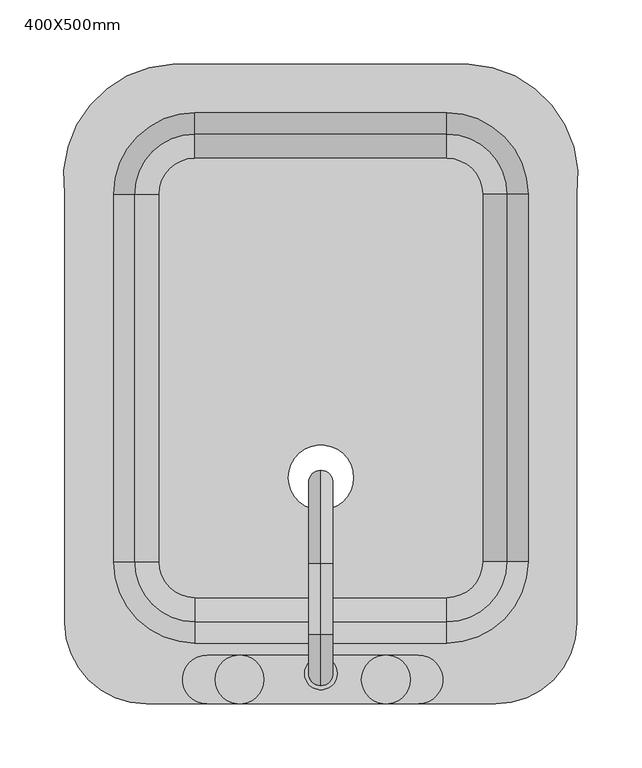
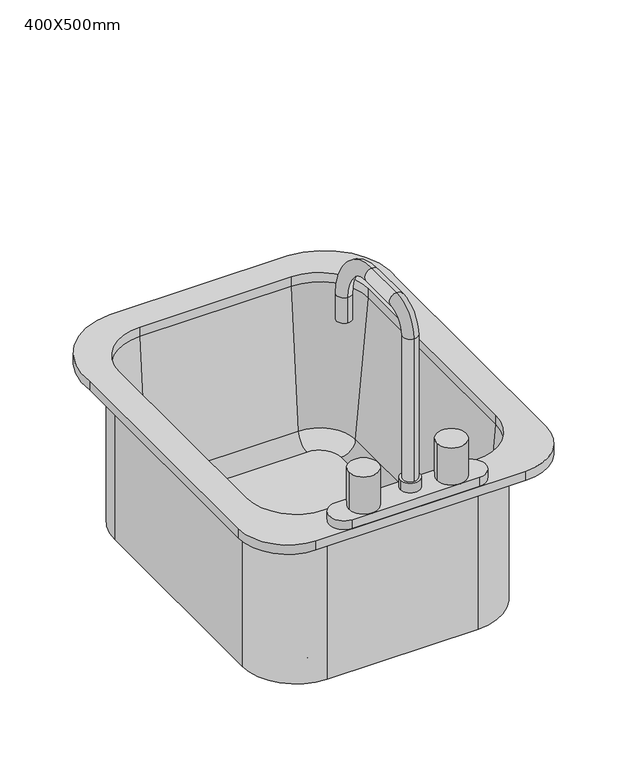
"""IFC4 building model written with IfcOpenShell, lengths in millimetres: flow terminal geometry, ARQ_VANITORIO : 400X500mm."""

from ifc_helpers import new_model, si_unit, point, frame, origin, place, context, project, spatial, polyline, circle_curve, ellipse_curve, trimmed, source, transform, mapped, element, save
from ifc_brep_helpers import plane_surface, cylinder_surface, revolved_surface, advanced_brep


def flow_terminal_400x500mm_d8bb822e(model_context):
    return source(origin(), model_context, "Body", "AdvancedBrep", [
        advanced_brep(
        [(183.9392406, -69.0204011, 634.1), (183.9392406, -69.0204011, 850.0), (114.0892406, -138.8704011, 850.0), (114.0892406, -138.8704011, 634.1), (-82.7107594, -138.8704011, 634.1), (-152.5607594, -69.0204011, 634.1), (-152.5607594, 218.2545989, 634.1), (-82.7107594, 288.1045989, 634.1), (114.0892406, 288.1045989, 634.1), (183.9392406, 218.2545989, 634.1), (-9.7107594, -3.175, 634.1), (41.0892406, -3.175, 634.1), (142.0776588, -69.0204011, 643.625), (142.0776588, 218.2545989, 643.625), (114.0892406, 246.2430171, 643.625), (-82.7107594, 246.2430171, 643.625), (-110.6991776, 218.2545989, 643.625), (-110.6991776, -69.0204011, 643.625), (-82.7107594, -97.0088193, 643.625), (114.0892406, -97.0088193, 643.625), (-9.7107594, -3.175, 643.625), (41.0892406, -3.175, 643.625), (114.0892406, -115.9863283, 661.0146831), (161.0551678, -69.0204011, 661.0146831), (114.0892406, -132.5204011, 850.0), (177.5892406, -69.0204011, 850.0), (183.9392406, 218.2545989, 850.0), (161.0551678, 218.2545989, 661.0146831), (177.5892406, 218.2545989, 850.0), (114.0892406, 288.1045989, 850.0), (114.0892406, 265.2205261, 661.0146831), (114.0892406, 281.7545989, 850.0), (-82.7107594, 288.1045989, 850.0), (-82.7107594, 265.2205261, 661.0146831), (-82.7107594, 281.7545989, 850.0), (-152.5607594, 218.2545989, 850.0), (-129.6766866, 218.2545989, 661.0146831), (-146.2107594, 218.2545989, 850.0), (-152.5607594, -69.0204011, 850.0), (-129.6766866, -69.0204011, 661.0146831), (-146.2107594, -69.0204011, 850.0), (-82.7107594, -138.8704011, 850.0), (-82.7107594, -115.9863283, 661.0146831), (-82.7107594, -132.5204011, 850.0), (-99.9606923, 319.8545989, 862.7), (-184.3107593, 218.2545982, 862.7), (-184.3107593, -116.6454011, 862.7), (-120.8107593, -180.1454011, 862.7), (152.1892406, -180.1454011, 862.7), (215.6892406, -116.6454011, 862.7), (215.6892406, 218.2545989, 862.7), (131.3391735, 319.8545989, 862.7), (114.0892406, -132.5204011, 862.7), (-82.7107594, -132.5204011, 862.7), (-146.2107594, -69.0204011, 862.7), (-146.2107594, 218.2545989, 862.7), (-82.7107594, 281.7545989, 862.7), (114.0892406, 281.7545989, 862.7), (177.5892406, 218.2545989, 862.7), (177.5892406, -69.0204011, 862.7), (-99.9606923, 319.8545989, 850.0), (131.3391735, 319.8545989, 850.0), (215.6892406, 218.2545989, 850.0), (215.6892406, -116.6454011, 850.0), (152.1892406, -180.1454011, 850.0), (-120.8107593, -180.1454011, 850.0), (-184.3107593, -116.6454011, 850.0), (-184.3107593, 218.2545982, 850.0)],
        [
            (0, 1),
            (1, 2, circle_curve(frame((114.0892406, -69.0204011, 850.0), z_axis=(0.0, 0.0, -1.0), x_axis=(0.0, -1.0, 0.0)), 69.85)),
            (2, 3),
            (3, 0, circle_curve(frame((114.0892406, -69.0204011, 634.1), z_axis=(0.0, 0.0, 1.0), x_axis=(0.0, -1.0, 0.0)), 69.85)),
            (3, 4),
            (4, 5, circle_curve(frame((-82.7107594, -69.0204011, 634.1), z_axis=(0.0, 0.0, -1.0), x_axis=(-1.0, 0.0, 0.0)), 69.85)),
            (5, 6),
            (6, 7, circle_curve(frame((-82.7107594, 218.2545989, 634.1), z_axis=(0.0, 0.0, -1.0), x_axis=(0.0, 1.0, 0.0)), 69.85)),
            (7, 8),
            (8, 9, circle_curve(frame((114.0892406, 218.2545989, 634.1), z_axis=(0.0, 0.0, -1.0), x_axis=(1.0, 0.0, 0.0)), 69.85)),
            (9, 0),
            (10, 11, circle_curve(frame((15.6892406, -3.175, 634.1), z_axis=(0.0, 0.0, 1.0), x_axis=(1.0, 0.0, 0.0)), 25.4)),
            (11, 10, circle_curve(frame((15.6892406, -3.175, 634.1), z_axis=(0.0, 0.0, 1.0), x_axis=(1.0, 0.0, 0.0)), 25.4)),
            (12, 13),
            (13, 14, circle_curve(frame((114.0892406, 218.2545989, 643.625), z_axis=(0.0, 0.0, 1.0), x_axis=(1.0, 0.0, 0.0)), 27.9884182)),
            (14, 15),
            (15, 16, circle_curve(frame((-82.7107594, 218.2545989, 643.625), z_axis=(0.0, 0.0, 1.0), x_axis=(0.0, 1.0, 0.0)), 27.9884182)),
            (16, 17),
            (17, 18, circle_curve(frame((-82.7107594, -69.0204011, 643.625), z_axis=(0.0, 0.0, 1.0), x_axis=(-1.0, 0.0, 0.0)), 27.9884182)),
            (18, 19),
            (19, 12, circle_curve(frame((114.0892406, -69.0204011, 643.625), z_axis=(0.0, 0.0, 1.0), x_axis=(0.0, -1.0, 0.0)), 27.9884182)),
            (20, 21, circle_curve(frame((15.6892406, -3.175, 643.625), z_axis=(0.0, 0.0, -1.0), x_axis=(1.0, 0.0, 0.0)), 25.4)),
            (21, 20, circle_curve(frame((15.6892406, -3.175, 643.625), z_axis=(0.0, 0.0, -1.0), x_axis=(1.0, 0.0, 0.0)), 25.4)),
            (19, 22, circle_curve(frame((114.0892406, -97.0088193, 662.675), z_axis=(-1.0, 0.0, 0.0), x_axis=(0.0, -1.0, 0.0)), 19.05)),
            (22, 23, circle_curve(frame((114.0892406, -69.0204011, 661.0146831), z_axis=(0.0, 0.0, 1.0), x_axis=(0.0, -1.0, 0.0)), 46.9659272)),
            (23, 12, circle_curve(frame((142.0776588, -69.0204011, 662.675), z_axis=(0.0, 1.0, 0.0), x_axis=(1.0, 0.0, 0.0)), 19.05)),
            (22, 24),
            (24, 25, circle_curve(frame((114.0892406, -69.0204011, 850.0), z_axis=(0.0, 0.0, 1.0), x_axis=(0.0, -1.0, 0.0)), 63.5)),
            (25, 23),
            (9, 26),
            (26, 1),
            (23, 27),
            (27, 13, circle_curve(frame((142.0776588, 218.2545989, 662.675), z_axis=(0.0, 1.0, 0.0), x_axis=(1.0, 0.0, 0.0)), 19.05)),
            (25, 28),
            (28, 27),
            (8, 29),
            (29, 26, circle_curve(frame((114.0892406, 218.2545989, 850.0), z_axis=(0.0, 0.0, -1.0), x_axis=(1.0, 0.0, 0.0)), 69.85)),
            (27, 30, circle_curve(frame((114.0892406, 218.2545989, 661.0146831), z_axis=(0.0, 0.0, 1.0), x_axis=(1.0, 0.0, 0.0)), 46.9659272)),
            (30, 14, circle_curve(frame((114.0892406, 246.2430171, 662.675), z_axis=(-1.0, 0.0, 0.0), x_axis=(0.0, 1.0, 0.0)), 19.05)),
            (28, 31, circle_curve(frame((114.0892406, 218.2545989, 850.0), z_axis=(0.0, 0.0, 1.0), x_axis=(1.0, 0.0, 0.0)), 63.5)),
            (31, 30),
            (7, 32),
            (32, 29),
            (30, 33),
            (33, 15, circle_curve(frame((-82.7107594, 246.2430171, 662.675), z_axis=(-1.0, 0.0, 0.0), x_axis=(0.0, 1.0, 0.0)), 19.05)),
            (31, 34),
            (34, 33),
            (6, 35),
            (35, 32, circle_curve(frame((-82.7107594, 218.2545989, 850.0), z_axis=(0.0, 0.0, -1.0), x_axis=(0.0, 1.0, 0.0)), 69.85)),
            (33, 36, circle_curve(frame((-82.7107594, 218.2545989, 661.0146831), z_axis=(0.0, 0.0, 1.0), x_axis=(0.0, 1.0, 0.0)), 46.9659272)),
            (36, 16, circle_curve(frame((-110.6991776, 218.2545989, 662.675), z_axis=(0.0, -1.0, 0.0), x_axis=(-1.0, 0.0, 0.0)), 19.05)),
            (34, 37, circle_curve(frame((-82.7107594, 218.2545989, 850.0), z_axis=(0.0, 0.0, 1.0), x_axis=(0.0, 1.0, 0.0)), 63.5)),
            (37, 36),
            (5, 38),
            (38, 35),
            (36, 39),
            (39, 17, circle_curve(frame((-110.6991776, -69.0204011, 662.675), z_axis=(0.0, -1.0, 0.0), x_axis=(-1.0, 0.0, 0.0)), 19.05)),
            (37, 40),
            (40, 39),
            (4, 41),
            (41, 38, circle_curve(frame((-82.7107594, -69.0204011, 850.0), z_axis=(0.0, 0.0, -1.0), x_axis=(-1.0, 0.0, 0.0)), 69.85)),
            (39, 42, circle_curve(frame((-82.7107594, -69.0204011, 661.0146831), z_axis=(0.0, 0.0, 1.0), x_axis=(-1.0, 0.0, 0.0)), 46.9659272)),
            (42, 18, circle_curve(frame((-82.7107594, -97.0088193, 662.675), z_axis=(1.0, 0.0, 0.0), x_axis=(0.0, -1.0, 0.0)), 19.05)),
            (40, 43, circle_curve(frame((-82.7107594, -69.0204011, 850.0), z_axis=(0.0, 0.0, 1.0), x_axis=(-1.0, 0.0, 0.0)), 63.5)),
            (43, 42),
            (2, 41),
            (42, 22),
            (43, 24),
            (21, 11),
            (10, 20),
            (44, 45, circle_curve(frame((-96.1534746, 230.8793432, 862.7), z_axis=(0.0, 0.0, 1.0), x_axis=(1.0, 0.0, 0.0)), 89.0566732)),
            (45, 46),
            (46, 47, circle_curve(frame((-120.8107593, -116.6454011, 862.7), z_axis=(0.0, 0.0, 1.0), x_axis=(1.0, 0.0, 0.0)), 63.5)),
            (47, 48),
            (48, 49, circle_curve(frame((152.1892406, -116.6454011, 862.7), z_axis=(0.0, 0.0, 1.0), x_axis=(1.0, 0.0, 0.0)), 63.5)),
            (49, 50),
            (50, 51, circle_curve(frame((127.5319557, 230.8793432, 862.7), z_axis=(0.0, 0.0, 1.0), x_axis=(1.0, 0.0, 0.0)), 89.0566732)),
            (51, 44),
            (52, 53),
            (53, 54, circle_curve(frame((-82.7107594, -69.0204011, 862.7), z_axis=(0.0, 0.0, -1.0), x_axis=(1.0, 0.0, 0.0)), 63.5)),
            (54, 55),
            (55, 56, circle_curve(frame((-82.7107594, 218.2545989, 862.7), z_axis=(0.0, 0.0, -1.0), x_axis=(1.0, 0.0, 0.0)), 63.5)),
            (56, 57),
            (57, 58, circle_curve(frame((114.0892406, 218.2545989, 862.7), z_axis=(0.0, 0.0, -1.0), x_axis=(1.0, 0.0, 0.0)), 63.5)),
            (58, 59),
            (59, 52, circle_curve(frame((114.0892406, -69.0204011, 862.7), z_axis=(0.0, 0.0, -1.0), x_axis=(1.0, 0.0, 0.0)), 63.5)),
            (60, 61),
            (61, 62, circle_curve(frame((127.5319557, 230.8793432, 850.0), z_axis=(0.0, 0.0, -1.0), x_axis=(1.0, 0.0, 0.0)), 89.0566732)),
            (62, 63),
            (63, 64, circle_curve(frame((152.1892406, -116.6454011, 850.0), z_axis=(0.0, 0.0, -1.0), x_axis=(1.0, 0.0, 0.0)), 63.5)),
            (64, 65),
            (65, 66, circle_curve(frame((-120.8107593, -116.6454011, 850.0), z_axis=(0.0, 0.0, -1.0), x_axis=(1.0, 0.0, 0.0)), 63.5)),
            (66, 67),
            (67, 60, circle_curve(frame((-96.1534746, 230.8793432, 850.0), z_axis=(0.0, 0.0, -1.0), x_axis=(1.0, 0.0, 0.0)), 89.0566732)),
            (51, 61),
            (60, 44),
            (50, 62),
            (49, 63),
            (48, 64),
            (47, 65),
            (46, 66),
            (45, 67),
            (59, 25),
            (24, 52),
            (58, 28),
            (57, 31),
            (56, 34),
            (55, 37),
            (54, 40),
            (53, 43),
        ],
        [
            cylinder_surface(frame((114.0892406, -69.0204011, 0.0), z_axis=(0.0, 0.0, -1.0), x_axis=(0.0, -1.0, 0.0)), 69.85),
            plane_surface(frame((114.0892406, -69.0204011, 634.1), z_axis=(0.0, 0.0, -1.0), x_axis=(0.0, -1.0, 0.0))),
            plane_surface(frame((114.0892406, -69.0204011, 643.625), z_axis=(0.0, 0.0, 1.0), x_axis=(0.0, -1.0, 0.0))),
            revolved_surface(trimmed(ellipse_curve(frame((114.0892406, -97.0088193, 662.675), z_axis=(-1.0, 0.0, 0.0), x_axis=(0.0, -1.0, 0.0)), 19.05, 19.05), [point((114.0892406, -97.0088193, 643.625))], [point((114.0892406, -115.9863283, 661.0146831))], True, "CARTESIAN"), (114.0892406, -69.0204011, 0.0), (0.0, 0.0, -1.0)),
            revolved_surface(polyline([(114.0892406, -115.9863283, 661.0146831), (114.0892406, -132.5204011, 850.0)]), (114.0892406, -69.0204011, 0.0), (0.0, 0.0, -1.0)),
            plane_surface(frame((183.9392406, -69.0204011, 850.0), z_axis=(1.0, 0.0, 0.0), x_axis=(0.0, 1.0, 0.0))),
            revolved_surface(polyline([(161.1276588, 218.25459889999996, 662.675), (161.1276588, -69.0204011, 662.675)]), (142.0776588, -69.0204011, 662.675), (0.0, 1.0, 0.0)),
            plane_surface(frame((161.0551678, -69.0204011, 661.0146831), z_axis=(-0.9961946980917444, 0.0, 0.08715574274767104), x_axis=(0.0, 1.0, 0.0))),
            cylinder_surface(frame((114.0892406, 218.2545989, 0.0), z_axis=(0.0, 0.0, -1.0), x_axis=(1.0, 0.0, 0.0)), 69.85),
            revolved_surface(trimmed(ellipse_curve(frame((142.0776588, 218.2545989, 662.675), z_axis=(0.0, -1.0, 0.0), x_axis=(1.0, 0.0, 0.0)), 19.05, 19.05), [point((142.0776588, 218.2545989, 643.625))], [point((161.0551678, 218.2545989, 661.0146831))], True, "CARTESIAN"), (114.0892406, 218.2545989, 0.0), (0.0, 0.0, -1.0)),
            revolved_surface(polyline([(161.0551678, 218.2545989, 661.0146831), (177.5892406, 218.2545989, 850.0)]), (114.0892406, 218.2545989, 0.0), (0.0, 0.0, -1.0)),
            plane_surface(frame((114.0892406, 288.1045989, 850.0), z_axis=(0.0, 1.0, 0.0), x_axis=(-1.0, 0.0, 0.0))),
            revolved_surface(polyline([(-82.71075940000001, 265.2930171, 662.675), (114.0892406, 265.2930171, 662.675)]), (114.0892406, 246.2430171, 662.675), (-1.0, 0.0, 0.0)),
            plane_surface(frame((114.0892406, 265.2205261, 661.0146831), z_axis=(0.0, -0.9961946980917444, 0.08715574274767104), x_axis=(-1.0, 0.0, 0.0))),
            cylinder_surface(frame((-82.7107594, 218.2545989, 0.0), z_axis=(0.0, 0.0, -1.0), x_axis=(0.0, 1.0, 0.0)), 69.85),
            revolved_surface(trimmed(ellipse_curve(frame((-82.7107594, 246.2430171, 662.675), z_axis=(1.0, 0.0, 0.0), x_axis=(0.0, 1.0, 0.0)), 19.05, 19.05), [point((-82.7107594, 246.2430171, 643.625))], [point((-82.7107594, 265.2205261, 661.0146831))], True, "CARTESIAN"), (-82.7107594, 218.2545989, 0.0), (0.0, 0.0, -1.0)),
            revolved_surface(polyline([(-82.7107594, 265.2205261, 661.0146831), (-82.7107594, 281.7545989, 850.0)]), (-82.7107594, 218.2545989, 0.0), (0.0, 0.0, -1.0)),
            plane_surface(frame((-152.5607594, 218.2545989, 850.0), z_axis=(-1.0, 0.0, 0.0), x_axis=(0.0, -1.0, 0.0))),
            revolved_surface(polyline([(-129.7491776, -69.02040109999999, 662.675), (-129.7491776, 218.2545989, 662.675)]), (-110.6991776, 218.2545989, 662.675), (0.0, -1.0, 0.0)),
            plane_surface(frame((-129.6766866, 218.2545989, 661.0146831), z_axis=(0.9961946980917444, 0.0, 0.08715574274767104), x_axis=(0.0, -1.0, 0.0))),
            cylinder_surface(frame((-82.7107594, -69.0204011, 0.0), z_axis=(0.0, 0.0, -1.0), x_axis=(-1.0, 0.0, 0.0)), 69.85),
            revolved_surface(trimmed(ellipse_curve(frame((-110.6991776, -69.0204011, 662.675), z_axis=(0.0, 1.0, 0.0), x_axis=(-1.0, 0.0, 0.0)), 19.05, 19.05), [point((-110.6991776, -69.0204011, 643.625))], [point((-129.6766866, -69.0204011, 661.0146831))], True, "CARTESIAN"), (-82.7107594, -69.0204011, 0.0), (0.0, 0.0, -1.0)),
            revolved_surface(polyline([(-129.6766866, -69.0204011, 661.0146831), (-146.2107594, -69.0204011, 850.0)]), (-82.7107594, -69.0204011, 0.0), (0.0, 0.0, -1.0)),
            plane_surface(frame((-82.7107594, -138.8704011, 850.0), z_axis=(0.0, -1.0, 0.0), x_axis=(1.0, 0.0, 0.0))),
            revolved_surface(polyline([(114.08924060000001, -116.0588193, 662.675), (-82.7107594, -116.0588193, 662.675)]), (-82.7107594, -97.0088193, 662.675), (1.0, 0.0, 0.0)),
            plane_surface(frame((-82.7107594, -115.9863283, 661.0146831), z_axis=(0.0, 0.9961946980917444, 0.08715574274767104), x_axis=(1.0, 0.0, 0.0))),
            revolved_surface(polyline([(41.0892406, -3.175, 634.1), (41.0892406, -3.175, 643.625)]), (15.6892406, -3.175, 0.0), (0.0, 0.0, -1.0)),
            plane_surface(frame((131.3391735, 319.8545989, 862.7), z_axis=(0.0, 0.0, 1.0), x_axis=(1.0, 0.0, 0.0))),
            plane_surface(frame((131.3391735, 319.8545989, 850.0), z_axis=(0.0, 0.0, -1.0), x_axis=(-1.0, 0.0, 0.0))),
            plane_surface(frame((-99.9606923, 319.8545989, 862.7), z_axis=(0.0, 1.0, 0.0), x_axis=(0.0, 0.0, -1.0))),
            cylinder_surface(frame((127.5319557, 230.8793432, 850.0), z_axis=(0.0, 0.0, 1.0), x_axis=(1.0, 0.0, 0.0)), 89.0566732),
            plane_surface(frame((215.6892406, 218.2545989, 862.7), z_axis=(1.0, 0.0, 0.0), x_axis=(0.0, 0.0, -1.0))),
            cylinder_surface(frame((152.1892406, -116.6454011, 850.0), z_axis=(0.0, 0.0, 1.0), x_axis=(1.0, 0.0, 0.0)), 63.5),
            plane_surface(frame((152.1892406, -180.1454011, 862.7), z_axis=(0.0, -1.0, 0.0), x_axis=(0.0, 0.0, -1.0))),
            cylinder_surface(frame((-120.8107593, -116.6454011, 850.0), z_axis=(0.0, 0.0, 1.0), x_axis=(1.0, 0.0, 0.0)), 63.5),
            plane_surface(frame((-184.3107593, -116.6454011, 862.7), z_axis=(-1.0, 0.0, 0.0), x_axis=(0.0, 0.0, -1.0))),
            cylinder_surface(frame((-96.1534746, 230.8793432, 850.0), z_axis=(0.0, 0.0, 1.0), x_axis=(1.0, 0.0, 0.0)), 89.0566732),
            revolved_surface(polyline([(177.58924059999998, -69.0204011, 850.0), (177.58924059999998, -69.0204011, 862.7)]), (114.0892406, -69.0204011, 0.0), (0.0, 0.0, -1.0)),
            plane_surface(frame((177.5892406, -69.0204011, 862.7), z_axis=(-1.0, 0.0, 0.0), x_axis=(0.0, 0.0, -1.0))),
            revolved_surface(polyline([(177.58924059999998, 218.2545989, 850.0), (177.58924059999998, 218.2545989, 862.7)]), (114.0892406, 218.2545989, 0.0), (0.0, 0.0, -1.0)),
            plane_surface(frame((114.0892406, 281.7545989, 862.7), z_axis=(0.0, -1.0, 0.0), x_axis=(0.0, 0.0, -1.0))),
            revolved_surface(polyline([(-19.2107594, 218.2545989, 850.0), (-19.2107594, 218.2545989, 862.7)]), (-82.7107594, 218.2545989, 0.0), (0.0, 0.0, -1.0)),
            plane_surface(frame((-146.2107594, 218.2545989, 862.7), z_axis=(1.0, 0.0, 0.0), x_axis=(0.0, 0.0, -1.0))),
            revolved_surface(polyline([(-19.2107594, -69.0204011, 850.0), (-19.2107594, -69.0204011, 862.7)]), (-82.7107594, -69.0204011, 0.0), (0.0, 0.0, -1.0)),
            plane_surface(frame((-82.7107594, -132.5204011, 862.7), z_axis=(0.0, 1.0, 0.0), x_axis=(0.0, 0.0, -1.0))),
        ],
        [
            (0, [[1, 2, 3, 4]]),
            (1, [[5, 6, 7, 8, 9, 10, 11, -4], [12, 13]]),
            (2, [[14, 15, 16, 17, 18, 19, 20, 21], [22, 23]]),
            (3, [[24, 25, 26, -21]]),
            (4, [[27, 28, 29, -25]]),
            (5, [[-11, 30, 31, -1]]),
            (6, [[32, 33, -14, -26]]),
            (7, [[34, 35, -32, -29]]),
            (8, [[-10, 36, 37, -30]]),
            (9, [[38, 39, -15, -33]]),
            (10, [[40, 41, -38, -35]]),
            (11, [[-9, 42, 43, -36]]),
            (12, [[44, 45, -16, -39]]),
            (13, [[46, 47, -44, -41]]),
            (14, [[-8, 48, 49, -42]]),
            (15, [[50, 51, -17, -45]]),
            (16, [[52, 53, -50, -47]]),
            (17, [[-7, 54, 55, -48]]),
            (18, [[56, 57, -18, -51]]),
            (19, [[58, 59, -56, -53]]),
            (20, [[-6, 60, 61, -54]]),
            (21, [[62, 63, -19, -57]]),
            (22, [[64, 65, -62, -59]]),
            (23, [[66, -60, -5, -3]]),
            (24, [[-20, -63, 67, -24]]),
            (25, [[-67, -65, 68, -27]]),
            (26, [[69, -12, 70, -23]]),
            (26, [[-70, -13, -69, -22]]),
            (27, [[71, 72, 73, 74, 75, 76, 77, 78], [79, 80, 81, 82, 83, 84, 85, 86]]),
            (28, [[87, 88, 89, 90, 91, 92, 93, 94], [-31, -37, -43, -49, -55, -61, -66, -2]]),
            (29, [[95, -87, 96, -78]]),
            (30, [[97, -88, -95, -77]]),
            (31, [[98, -89, -97, -76]]),
            (32, [[99, -90, -98, -75]]),
            (33, [[100, -91, -99, -74]]),
            (34, [[101, -92, -100, -73]]),
            (35, [[102, -93, -101, -72]]),
            (36, [[-96, -94, -102, -71]]),
            (37, [[103, -28, 104, -86]]),
            (38, [[105, -34, -103, -85]]),
            (39, [[106, -40, -105, -84]]),
            (40, [[107, -46, -106, -83]]),
            (41, [[108, -52, -107, -82]]),
            (42, [[109, -58, -108, -81]]),
            (43, [[110, -64, -109, -80]]),
            (44, [[-104, -68, -110, -79]]),
        ],
    ),
        advanced_brep(
        [(91.8892406, -180.1454011, 862.7), (66.4892406, -180.1454011, 862.7), (-47.8107594, -180.1454011, 862.7), (-73.2107594, -180.1454011, 862.7), (-73.2107594, -142.0454011, 862.7), (-47.8107594, -142.0454011, 862.7), (66.4892406, -142.0454011, 862.7), (91.8892406, -142.0454011, 862.7), (15.6892406, -165.8579011, 1083.3625), (15.6892406, -165.8579011, 888.1), (15.6892406, -146.8079011, 888.1), (15.6892406, -146.8079011, 1083.3625), (15.6892406, -126.1704011, 1104.0), (15.6892406, -126.1704011, 1123.05), (15.6892406, -70.6079011, 1104.0), (15.6892406, -70.6079011, 1123.05), (15.6892406, -16.6329011, 1050.025), (15.6892406, 2.4170989, 1050.025), (15.6892406, 2.4170989, 1015.1), (15.6892406, -16.6329011, 1015.1), (2.9892406, -156.3329011, 888.1), (28.3892406, -156.3329011, 888.1), (28.3892406, -156.3329011, 875.2), (2.9892406, -156.3329011, 875.2), (-73.2107594, -180.1454011, 875.2), (-47.8107594, -180.1454011, 875.2), (-66.8607594, -161.0954011, 875.2), (-47.8107594, -142.0454011, 875.2), (-73.2107594, -142.0454011, 875.2), (91.8892406, -142.0454011, 875.2), (66.4892406, -142.0454011, 875.2), (85.5392406, -161.0954011, 875.2), (66.4892406, -180.1454011, 875.2), (91.8892406, -180.1454011, 875.2), (47.4392406, -161.0954011, 875.2), (-28.7607594, -161.0954011, 875.2), (-66.8607594, -161.0954011, 926.2), (-28.7607594, -161.0954011, 926.2), (47.4392406, -161.0954011, 926.2), (85.5392406, -161.0954011, 926.2)],
        [
            (0, 1),
            (1, 2),
            (2, 3),
            (3, 4, circle_curve(frame((-73.2107594, -161.0954011, 862.7), z_axis=(0.0, 0.0, -1.0), x_axis=(1.0, 0.0, 0.0)), 19.05)),
            (4, 5),
            (5, 6),
            (6, 7),
            (7, 0, circle_curve(frame((91.8892406, -161.0954011, 862.7), z_axis=(0.0, 0.0, -1.0), x_axis=(1.0, 0.0, 0.0)), 19.05)),
            (8, 9),
            (9, 10, circle_curve(frame((15.6892406, -156.3329011, 888.1), z_axis=(0.0, 0.0, 1.0), x_axis=(0.0, 1.0, 0.0)), 9.525)),
            (10, 11),
            (11, 8, circle_curve(frame((15.6892406, -156.3329011, 1083.3625), z_axis=(0.0, 0.0, -1.0), x_axis=(0.0, 1.0, 0.0)), 9.525)),
            (10, 9, circle_curve(frame((15.6892406, -156.3329011, 888.1), z_axis=(0.0, 0.0, 1.0), x_axis=(0.0, 1.0, 0.0)), 9.525)),
            (8, 11, circle_curve(frame((15.6892406, -156.3329011, 1083.3625), z_axis=(0.0, 0.0, -1.0), x_axis=(0.0, 1.0, 0.0)), 9.525)),
            (11, 12, circle_curve(frame((15.6892406, -126.1704011, 1083.3625), z_axis=(-1.0, 0.0, 0.0), x_axis=(0.0, -1.0, 0.0)), 20.6375)),
            (12, 13, circle_curve(frame((15.6892406, -126.1704011, 1113.525), z_axis=(0.0, -1.0, 0.0), x_axis=(0.0, 0.0, -1.0)), 9.525)),
            (13, 8, circle_curve(frame((15.6892406, -126.1704011, 1083.3625), z_axis=(1.0, 0.0, 0.0), x_axis=(0.0, -1.0, 0.0)), 39.6875)),
            (13, 12, circle_curve(frame((15.6892406, -126.1704011, 1113.525), z_axis=(0.0, -1.0, 0.0), x_axis=(0.0, 0.0, -1.0)), 9.525)),
            (12, 14),
            (14, 15, circle_curve(frame((15.6892406, -70.6079011, 1113.525), z_axis=(0.0, -1.0, 0.0), x_axis=(0.0, 0.0, -1.0)), 9.525)),
            (15, 13),
            (15, 14, circle_curve(frame((15.6892406, -70.6079011, 1113.525), z_axis=(0.0, -1.0, 0.0), x_axis=(0.0, 0.0, -1.0)), 9.525)),
            (14, 16, circle_curve(frame((15.6892406, -70.6079011, 1050.025), z_axis=(-1.0, 0.0, 0.0), x_axis=(0.0, 0.0, 1.0)), 53.975)),
            (16, 17, circle_curve(frame((15.6892406, -7.1079011, 1050.025), z_axis=(0.0, 0.0, 1.0), x_axis=(0.0, -1.0, 0.0)), 9.525)),
            (17, 15, circle_curve(frame((15.6892406, -70.6079011, 1050.025), z_axis=(1.0, 0.0, 0.0), x_axis=(0.0, 0.0, 1.0)), 73.025)),
            (17, 16, circle_curve(frame((15.6892406, -7.1079011, 1050.025), z_axis=(0.0, 0.0, 1.0), x_axis=(0.0, -1.0, 0.0)), 9.525)),
            (18, 19, circle_curve(frame((15.6892406, -7.1079011, 1015.1), z_axis=(0.0, 0.0, -1.0), x_axis=(0.0, -1.0, 0.0)), 9.525)),
            (19, 18, circle_curve(frame((15.6892406, -7.1079011, 1015.1), z_axis=(0.0, 0.0, -1.0), x_axis=(0.0, -1.0, 0.0)), 9.525)),
            (16, 19),
            (18, 17),
            (20, 21, circle_curve(frame((15.6892406, -156.3329011, 888.1), z_axis=(0.0, 0.0, 1.0), x_axis=(1.0, 0.0, 0.0)), 12.7)),
            (21, 20, circle_curve(frame((15.6892406, -156.3329011, 888.1), z_axis=(0.0, 0.0, 1.0), x_axis=(1.0, 0.0, 0.0)), 12.7)),
            (21, 22),
            (22, 23, circle_curve(frame((15.6892406, -156.3329011, 875.2), z_axis=(0.0, 0.0, 1.0), x_axis=(1.0, 0.0, 0.0)), 12.7)),
            (23, 20),
            (23, 22, circle_curve(frame((15.6892406, -156.3329011, 875.2), z_axis=(0.0, 0.0, 1.0), x_axis=(1.0, 0.0, 0.0)), 12.7)),
            (24, 25),
            (25, 26, circle_curve(frame((-47.8107594, -161.0954011, 875.2), z_axis=(0.0, 0.0, -1.0), x_axis=(1.0, 0.0, 0.0)), 19.05)),
            (26, 27, circle_curve(frame((-47.8107594, -161.0954011, 875.2), z_axis=(0.0, 0.0, -1.0), x_axis=(1.0, 0.0, 0.0)), 19.05)),
            (27, 28),
            (28, 24, circle_curve(frame((-73.2107594, -161.0954011, 875.2), z_axis=(0.0, 0.0, 1.0), x_axis=(1.0, 0.0, 0.0)), 19.05)),
            (29, 30),
            (30, 31, circle_curve(frame((66.4892406, -161.0954011, 875.2), z_axis=(0.0, 0.0, -1.0), x_axis=(1.0, 0.0, 0.0)), 19.05)),
            (31, 32, circle_curve(frame((66.4892406, -161.0954011, 875.2), z_axis=(0.0, 0.0, -1.0), x_axis=(1.0, 0.0, 0.0)), 19.05)),
            (32, 33),
            (33, 29, circle_curve(frame((91.8892406, -161.0954011, 875.2), z_axis=(0.0, 0.0, 1.0), x_axis=(1.0, 0.0, 0.0)), 19.05)),
            (32, 34, circle_curve(frame((66.4892406, -161.0954011, 875.2), z_axis=(0.0, 0.0, -1.0), x_axis=(1.0, 0.0, 0.0)), 19.05)),
            (34, 30, circle_curve(frame((66.4892406, -161.0954011, 875.2), z_axis=(0.0, 0.0, -1.0), x_axis=(1.0, 0.0, 0.0)), 19.05)),
            (30, 27),
            (27, 35, circle_curve(frame((-47.8107594, -161.0954011, 875.2), z_axis=(0.0, 0.0, -1.0), x_axis=(1.0, 0.0, 0.0)), 19.05)),
            (35, 25, circle_curve(frame((-47.8107594, -161.0954011, 875.2), z_axis=(0.0, 0.0, -1.0), x_axis=(1.0, 0.0, 0.0)), 19.05)),
            (25, 32),
            (24, 3),
            (0, 33),
            (28, 4),
            (29, 7),
            (36, 37, circle_curve(frame((-47.8107594, -161.0954011, 926.2), z_axis=(0.0, 0.0, 1.0), x_axis=(1.0, 0.0, 0.0)), 19.05)),
            (37, 36, circle_curve(frame((-47.8107594, -161.0954011, 926.2), z_axis=(0.0, 0.0, 1.0), x_axis=(1.0, 0.0, 0.0)), 19.05)),
            (38, 39, circle_curve(frame((66.4892406, -161.0954011, 926.2), z_axis=(0.0, 0.0, 1.0), x_axis=(1.0, 0.0, 0.0)), 19.05)),
            (39, 38, circle_curve(frame((66.4892406, -161.0954011, 926.2), z_axis=(0.0, 0.0, 1.0), x_axis=(1.0, 0.0, 0.0)), 19.05)),
            (37, 35),
            (26, 36),
            (39, 31),
            (34, 38),
        ],
        [
            plane_surface(frame((15.6892406, -146.8079011, 862.7), z_axis=(0.0, 0.0, -1.0), x_axis=(1.0, 0.0, 0.0))),
            cylinder_surface(frame((15.6892406, -156.3329011, 862.7), z_axis=(0.0, 0.0, -1.0), x_axis=(0.0, 1.0, 0.0)), 9.525),
            revolved_surface(trimmed(ellipse_curve(frame((15.6892406, -156.3329011, 1083.3625), z_axis=(0.0, 0.0, 1.0), x_axis=(0.0, 1.0, 0.0)), 9.525, 9.525), [point((15.6892406, -165.8579011, 1083.3625))], [point((15.6892406, -146.8079011, 1083.3625))], True, "CARTESIAN"), (15.6892406, -126.1704011, 1083.3625), (1.0, 0.0, 0.0)),
            revolved_surface(trimmed(ellipse_curve(frame((15.6892406, -156.3329011, 1083.3625), z_axis=(0.0, 0.0, 1.0), x_axis=(0.0, 1.0, 0.0)), 9.525, 9.525), [point((15.6892406, -146.8079011, 1083.3625))], [point((15.6892406, -165.8579011, 1083.3625))], True, "CARTESIAN"), (15.6892406, -126.1704011, 1083.3625), (1.0, 0.0, 0.0)),
            cylinder_surface(frame((15.6892406, -126.1704011, 1113.525), z_axis=(0.0, -1.0, 0.0), x_axis=(0.0, 0.0, -1.0)), 9.525),
            revolved_surface(trimmed(ellipse_curve(frame((15.6892406, -70.6079011, 1113.525), z_axis=(0.0, 1.0, 0.0), x_axis=(0.0, 0.0, -1.0)), 9.525, 9.525), [point((15.6892406, -70.6079011, 1123.05))], [point((15.6892406, -70.6079011, 1104.0))], True, "CARTESIAN"), (15.6892406, -70.6079011, 1050.025), (1.0, 0.0, 0.0)),
            revolved_surface(trimmed(ellipse_curve(frame((15.6892406, -70.6079011, 1113.525), z_axis=(0.0, 1.0, 0.0), x_axis=(0.0, 0.0, -1.0)), 9.525, 9.525), [point((15.6892406, -70.6079011, 1104.0))], [point((15.6892406, -70.6079011, 1123.05))], True, "CARTESIAN"), (15.6892406, -70.6079011, 1050.025), (1.0, 0.0, 0.0)),
            plane_surface(frame((15.6892406, 2.4170989, 1015.1), z_axis=(0.0, 0.0, -1.0), x_axis=(-1.0, 0.0, 0.0))),
            cylinder_surface(frame((15.6892406, -7.1079011, 1050.025), z_axis=(0.0, 0.0, 1.0), x_axis=(0.0, -1.0, 0.0)), 9.525),
            plane_surface(frame((28.3892406, -156.3329011, 888.1), z_axis=(0.0, 0.0, 1.0), x_axis=(0.0, -1.0, 0.0))),
            cylinder_surface(frame((15.6892406, -156.3329011, 862.7), z_axis=(0.0, 0.0, 1.0), x_axis=(1.0, 0.0, 0.0)), 12.7),
            plane_surface(frame((-73.2107594, -180.1454011, 875.2), z_axis=(0.0, 0.0, 1.0), x_axis=(-1.0, 0.0, 0.0))),
            plane_surface(frame((91.8892406, -180.1454011, 875.2), z_axis=(0.0, -1.0, 0.0), x_axis=(0.0, 0.0, -1.0))),
            cylinder_surface(frame((-73.2107594, -161.0954011, 862.7), z_axis=(0.0, 0.0, 1.0), x_axis=(1.0, 0.0, 0.0)), 19.05),
            plane_surface(frame((-73.2107594, -142.0454011, 875.2), z_axis=(0.0, 1.0, 0.0), x_axis=(0.0, 0.0, -1.0))),
            cylinder_surface(frame((91.8892406, -161.0954011, 862.7), z_axis=(0.0, 0.0, 1.0), x_axis=(1.0, 0.0, 0.0)), 19.05),
            plane_surface(frame((-28.7607594, -161.0954011, 926.2), z_axis=(0.0, 0.0, 1.0), x_axis=(0.0, -1.0, 0.0))),
            cylinder_surface(frame((-47.8107594, -161.0954011, 862.7), z_axis=(0.0, 0.0, 1.0), x_axis=(1.0, 0.0, 0.0)), 19.05),
            cylinder_surface(frame((66.4892406, -161.0954011, 0.0), z_axis=(0.0, 0.0, 1.0), x_axis=(1.0, 0.0, 0.0)), 19.05),
        ],
        [
            (0, [[1, 2, 3, 4, 5, 6, 7, 8]]),
            (1, [[9, 10, 11, 12]]),
            (1, [[-11, 13, -9, 14]]),
            (2, [[15, 16, 17, -12]]),
            (3, [[-17, 18, -15, -14]]),
            (4, [[19, 20, 21, -16]]),
            (4, [[-21, 22, -19, -18]]),
            (5, [[23, 24, 25, -20]]),
            (6, [[-25, 26, -23, -22]]),
            (7, [[27, 28]]),
            (8, [[29, -27, 30, -24]]),
            (8, [[-30, -28, -29, -26]]),
            (9, [[31, 32], [-13, -10]]),
            (10, [[33, 34, 35, -32]]),
            (10, [[-35, 36, -33, -31]]),
            (11, [[37, 38, 39, 40, 41]]),
            (11, [[42, 43, 44, 45, 46]]),
            (11, [[47, 48, 49, 50, 51, 52], [-36, -34]]),
            (12, [[-45, -52, -37, 53, -3, -2, -1, 54]]),
            (13, [[55, -4, -53, -41]]),
            (14, [[-40, -49, -42, 56, -7, -6, -5, -55]]),
            (15, [[-54, -8, -56, -46]]),
            (16, [[57, 58]]),
            (16, [[59, 60]]),
            (17, [[61, -50, -39, 62, -58]]),
            (17, [[-62, -38, -51, -61, -57]]),
            (18, [[63, -43, -48, 64, -60]]),
            (18, [[-64, -47, -44, -63, -59]]),
        ],
    ),
    ])


if __name__ == "__main__":
    model = new_model("IFC4")
    model_context = context("Model", 3, world=origin())
    ifc_project = project(units=[si_unit("LENGTHUNIT", "METRE", prefix="MILLI")], contexts=[model_context])
    site = spatial("IfcSite", under=ifc_project)
    building = spatial("IfcBuilding", under=site)
    placement = place(None, origin())
    flow_terminal_400x500mm_shape = flow_terminal_400x500mm_d8bb822e(model_context)
    element("IfcFlowTerminal", 1, ObjectType="ARQ_VANITORIO : 400X500mm", at=placement, inside=building, context=model_context, shape_type="MappedRepresentation", body=[
        mapped(flow_terminal_400x500mm_shape, transform((0.0, 0.0, 0.0), x_axis=(1.0, 0.0, 0.0), y_axis=(0.0, 1.0, 0.0), z_axis=(0.0, 0.0, 1.0))),
    ])
    save(model, "model.ifc")
